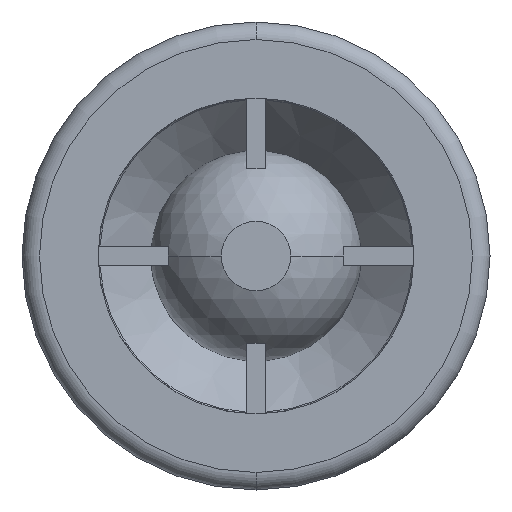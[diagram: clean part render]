
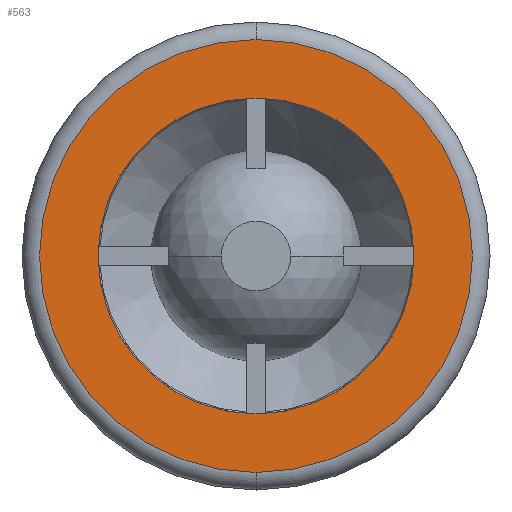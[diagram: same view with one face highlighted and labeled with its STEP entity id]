
A CAD part, front view. The second image highlights one B-rep face of the part: STEP entity #563.
In plain terms, the highlighted planar face has unit normal (0, -1, 0).
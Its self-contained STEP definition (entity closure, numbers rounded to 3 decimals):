
#513 = EDGE_LOOP ( 'NONE', ( #515, #583 ) ) ;
#515 = ORIENTED_EDGE ( 'NONE', *, *, #586, .T. ) ;
#563 = ADVANCED_FACE ( 'NONE', ( #1962, #1961 ), #1960, .F. ) ;
#577 = ORIENTED_EDGE ( 'NONE', *, *, #5710, .F. ) ;
#580 = ORIENTED_EDGE ( 'NONE', *, *, #5630, .F. ) ;
#582 = EDGE_LOOP ( 'NONE', ( #580, #577 ) ) ;
#583 = ORIENTED_EDGE ( 'NONE', *, *, #5563, .T. ) ;
#586 = EDGE_CURVE ( 'NONE', #5565, #5561, #1995, .T. ) ;
#1955 = DIRECTION ( 'NONE',  ( 0., 0., 1. ) ) ;
#1956 = DIRECTION ( 'NONE',  ( 0., 1., 0. ) ) ;
#1957 = CARTESIAN_POINT ( 'NONE',  ( -13.5, 0., 0. ) ) ;
#1959 = AXIS2_PLACEMENT_3D ( 'NONE', #1957, #1956, #1955 ) ;
#1960 = PLANE ( 'NONE',  #1959 ) ;
#1961 = FACE_BOUND ( 'NONE', #582, .T. ) ;
#1962 = FACE_OUTER_BOUND ( 'NONE', #513, .T. ) ;
#1992 = DIRECTION ( 'NONE',  ( 0., 0., 1. ) ) ;
#1993 = DIRECTION ( 'NONE',  ( 0., -1., 0. ) ) ;
#1994 = AXIS2_PLACEMENT_3D ( 'NONE', #1999, #1993, #1992 ) ;
#1995 = CIRCLE ( 'NONE', #1994, 18.5 ) ;
#1999 = CARTESIAN_POINT ( 'NONE',  ( 0., 0., 0. ) ) ;
#2935 = CARTESIAN_POINT ( 'NONE',  ( 0., 0., 18.5 ) ) ;
#2936 = DIRECTION ( 'NONE',  ( 0., 0., 1. ) ) ;
#2937 = DIRECTION ( 'NONE',  ( 0., -1., 0. ) ) ;
#2938 = CARTESIAN_POINT ( 'NONE',  ( 0., 0., 0. ) ) ;
#2939 = AXIS2_PLACEMENT_3D ( 'NONE', #2938, #2937, #2936 ) ;
#2940 = CIRCLE ( 'NONE', #2939, 18.5 ) ;
#2946 = CARTESIAN_POINT ( 'NONE',  ( 0., 0., -18.5 ) ) ;
#3116 = DIRECTION ( 'NONE',  ( 0., 0., -1. ) ) ;
#3117 = DIRECTION ( 'NONE',  ( 0., -1., 0. ) ) ;
#3118 = CARTESIAN_POINT ( 'NONE',  ( 0., 0., 0. ) ) ;
#3119 = AXIS2_PLACEMENT_3D ( 'NONE', #3118, #3117, #3116 ) ;
#3120 = CIRCLE ( 'NONE', #3119, 13.5 ) ;
#3215 = DIRECTION ( 'NONE',  ( 0., 0., -1. ) ) ;
#3216 = DIRECTION ( 'NONE',  ( 0., -1., 0. ) ) ;
#3217 = CARTESIAN_POINT ( 'NONE',  ( 0., 0., 0. ) ) ;
#3218 = AXIS2_PLACEMENT_3D ( 'NONE', #3217, #3216, #3215 ) ;
#3219 = CIRCLE ( 'NONE', #3218, 13.5 ) ;
#3221 = CARTESIAN_POINT ( 'NONE',  ( 0., 0., 13.5 ) ) ;
#3224 = CARTESIAN_POINT ( 'NONE',  ( 0., 0., -13.5 ) ) ;
#5561 = VERTEX_POINT ( 'NONE', #2946 ) ;
#5563 = EDGE_CURVE ( 'NONE', #5561, #5565, #2940, .T. ) ;
#5565 = VERTEX_POINT ( 'NONE', #2935 ) ;
#5630 = EDGE_CURVE ( 'NONE', #5703, #5708, #3120, .T. ) ;
#5703 = VERTEX_POINT ( 'NONE', #3224 ) ;
#5708 = VERTEX_POINT ( 'NONE', #3221 ) ;
#5710 = EDGE_CURVE ( 'NONE', #5708, #5703, #3219, .T. ) ;
